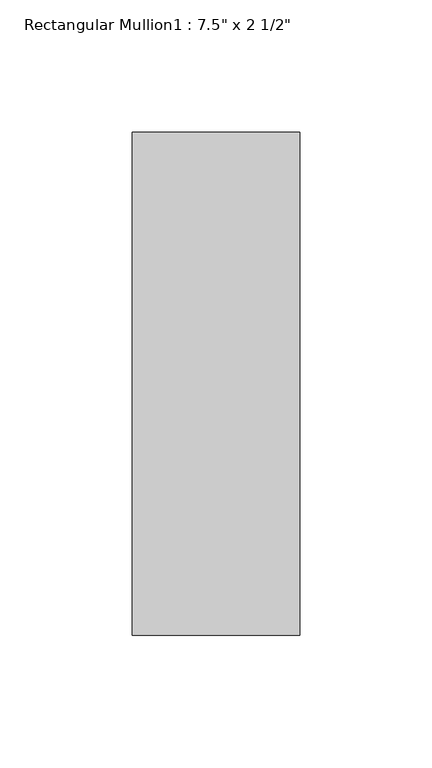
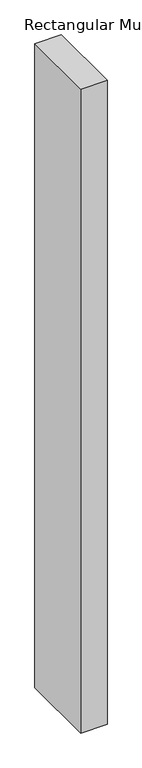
"""IFC4 building model written with IfcOpenShell, lengths in millimetres: member geometry."""

from ifc_helpers import new_model, si_unit, frame, origin, place, context, project, spatial, polyline, outline, extrude, source, transform, mapped, element, save


def member_af9577b9(model_context):
    return source(origin(), model_context, "Body", "SweptSolid", [
        extrude(outline(polyline([(0.0, -165.1), (-63.5, -165.1), (-63.5, 25.4), (0.0, 25.4), (0.0, -165.1)])), frame((0.0, 0.0, -1638.3000061), z_axis=(0.0, 0.0, 1.0), x_axis=(1.0, 0.0, 0.0)), (0.0, 0.0, 1.0), 1638.3000061),
    ])


if __name__ == "__main__":
    model = new_model("IFC4")
    model_context = context("Model", 3, world=origin())
    ifc_project = project(units=[si_unit("LENGTHUNIT", "METRE", prefix="MILLI")], contexts=[model_context])
    site = spatial("IfcSite", under=ifc_project)
    building = spatial("IfcBuilding", under=site)
    placement = place(None, origin())
    member_shape = member_af9577b9(model_context)
    element("IfcMember", 1, ObjectType="Rectangular Mullion1 : 7.5\" x 2 1/2\"", at=placement, inside=building, context=model_context, shape_type="MappedRepresentation", body=[
        mapped(member_shape, transform((0.0, 0.0, 0.0), x_axis=(1.0, 0.0, 0.0), y_axis=(0.0, 1.0, 0.0), z_axis=(0.0, 0.0, 1.0))),
    ])
    save(model, "model.ifc")
